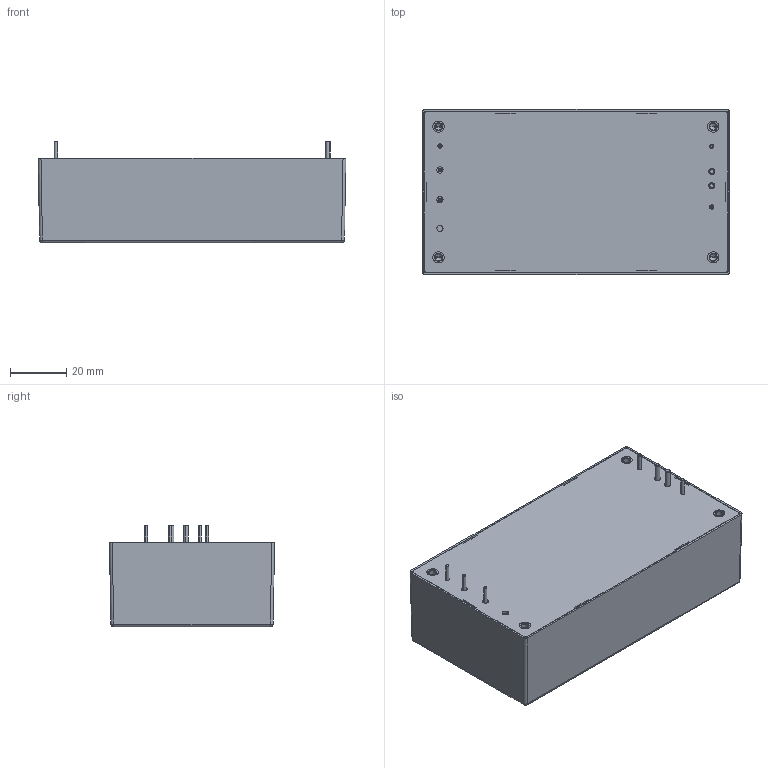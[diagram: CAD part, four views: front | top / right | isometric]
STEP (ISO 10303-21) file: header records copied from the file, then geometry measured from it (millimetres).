
FILE_DESCRIPTION((''),'2;1');
FILE_NAME('AQC100_ASM','2016-01-27T',('arch'),(''),'PRO/ENGINEER BY PARAMETRIC TECHNOLOGY CORPORATION, 2008380','PRO/ENGINEER BY PARAMETRIC TECHNOLOGY CORPORATION, 2008380','');
FILE_SCHEMA(('CONFIG_CONTROL_DESIGN'));
Length unit declared in the file: millimetre
Products named in the file (8): TOP_COVER; BOT_CASE-4244; M3_X_5_MM; BOT_CASE-4246_ASM; PIN_-_1_2_X_12_MM; PIN_-_1_8_X_12_MM; ASSEMBLY_ASM; AQC100_ASM
Assembly tree (15 placements, depth 4):
  AQC100_ASM
    ASSEMBLY_ASM
      TOP_COVER
      BOT_CASE-4246_ASM
        BOT_CASE-4244
        M3_X_5_MM  x4
      PIN_-_1_2_X_12_MM  x5
      PIN_-_1_8_X_12_MM  x2
Bounding box: 109 x 58.5 x 36 mm (x, y, z)
Volume: 27165.5 mm3; surface area: 45852.3 mm2
Topology: 13 solids, 13 shells, 319 faces, 706 edges, 424 vertices
Faces by surface type: plane 105, cylinder 90, torus 72, cone 48, sphere 4
Entity records: 6357 total; most frequent: DIRECTION 1160, CARTESIAN_POINT 1121, ORIENTED_EDGE 976, EDGE_CURVE 488, AXIS2_PLACEMENT_3D 444, VERTEX_POINT 304, VECTOR 272, LINE 272
